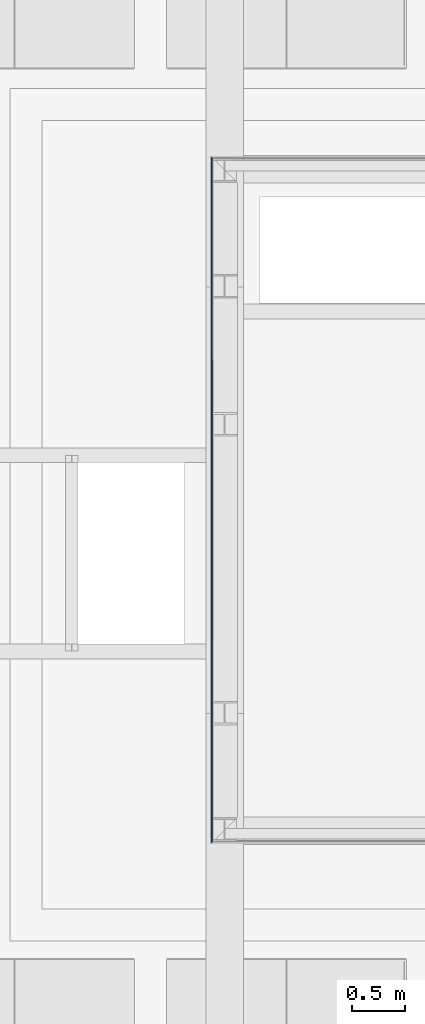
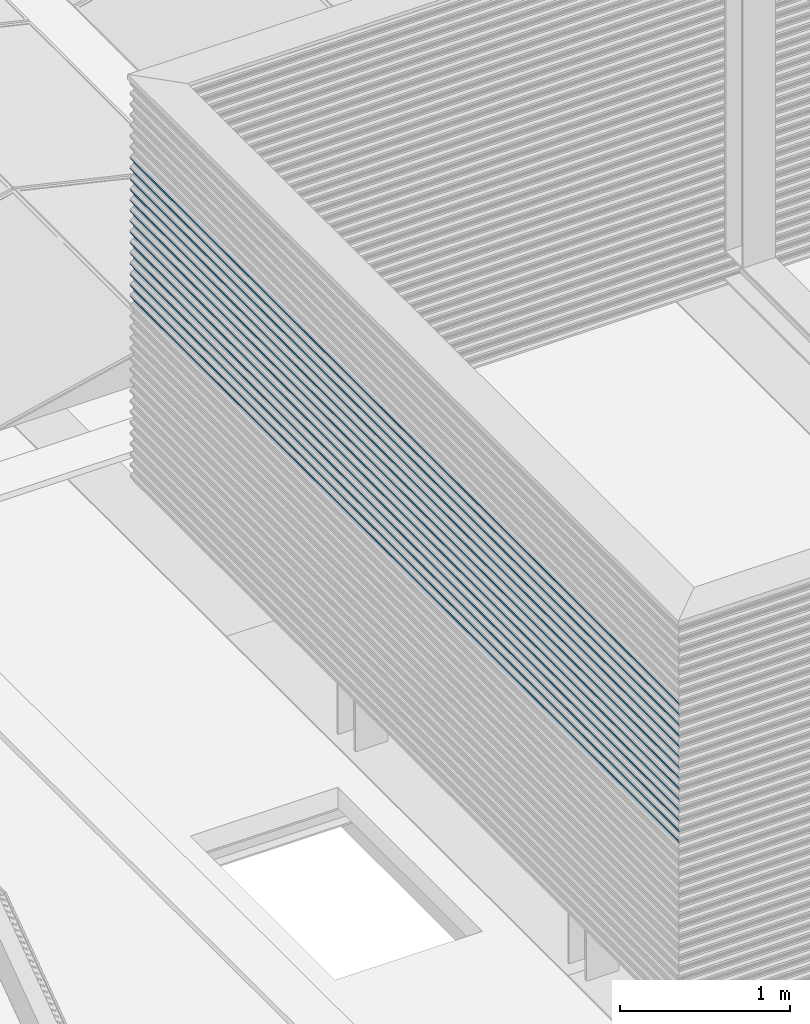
# One storey, part 24 of 63: 14 building element parts, 1 element without a shape of its own.
"""IFC2X3 building model written with IfcOpenShell, lengths in millimetres."""

from ifc_helpers import new_model, entity, si_unit, converted_unit, derived_unit, money_unit, direction, frame, origin_with_axes, place, context, subcontext, project, spatial, faceted_brep, material, type_object, element, aggregate, save


model = new_model("IFC2X3")

# Units and contexts
model_context = context("Model", 3, precision=0.01, world=origin_with_axes(), true_north=direction((0.0, 1.0)))
body_context = subcontext(model_context, "Body", "Model", "MODEL_VIEW")
ifc_project = project(units=[si_unit("LENGTHUNIT", "METRE", prefix="MILLI"), si_unit("AREAUNIT", "SQUARE_METRE"), si_unit("VOLUMEUNIT", "CUBIC_METRE"), converted_unit("PLANEANGLEUNIT", "DEGREE", entity("IfcPlaneAngleMeasure", 0.0174532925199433), si_unit("PLANEANGLEUNIT", "RADIAN"), dimensions=[0, 0, 0, 0, 0, 0, 0]), money_unit("EUR"), converted_unit("TIMEUNIT", "Year", entity("IfcTimeMeasure", 31557600.0), si_unit("TIMEUNIT", "SECOND"), dimensions=[0, 0, 1, 0, 0, 0, 0]), si_unit("MASSUNIT", "GRAM", prefix="KILO"), si_unit("THERMODYNAMICTEMPERATUREUNIT", "DEGREE_CELSIUS"), si_unit("LUMINOUSINTENSITYUNIT", "LUMEN"), si_unit("ENERGYUNIT", "JOULE", prefix="MEGA"), derived_unit("THERMALCONDUCTANCEUNIT", [(si_unit("POWERUNIT", "WATT"), 1), (si_unit("LENGTHUNIT", "METRE"), -1), (si_unit("THERMODYNAMICTEMPERATUREUNIT", "KELVIN"), -1)]), derived_unit("SPECIFICHEATCAPACITYUNIT", [(si_unit("ENERGYUNIT", "JOULE"), 1), (si_unit("MASSUNIT", "GRAM", prefix="KILO"), -1), (si_unit("THERMODYNAMICTEMPERATUREUNIT", "KELVIN"), -1)]), derived_unit("MASSDENSITYUNIT", [(si_unit("MASSUNIT", "GRAM", prefix="KILO"), 1), (si_unit("VOLUMEUNIT", "CUBIC_METRE"), -1)])], contexts=[model_context])

# Site, building, storey
site_placement = place(None, origin_with_axes())
site = spatial("IfcSite", under=ifc_project, at=site_placement, Name="<site naam>", CompositionType="ELEMENT")
building_placement = place(site_placement, origin_with_axes())
building = spatial("IfcBuilding", under=site, at=building_placement, Name="<Naam gebouw>", CompositionType="ELEMENT")
storey_placement = place(building_placement, frame((0.0, 0.0, 12770.0), z_axis=(0.0, 0.0, 1.0), x_axis=(1.0, 0.0, 0.0)))
storey = spatial("IfcBuildingStorey", under=building, at=storey_placement, Name="04 4e verdieping", CompositionType="ELEMENT", Elevation=12770.0)

# Wall, building element parts
wall_type = type_object("IfcWallType", Name="Gevelbeplating golf 18 x 2900", PredefinedType="NOTDEFINED")
wall_placement = place(storey_placement, frame((15871.99992141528, 13218.00009009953, 299.9552842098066), z_axis=(0.0, 0.0, 1.0), x_axis=(0.0, -1.0, 0.0)))
wall = element("IfcWall", 1, at=wall_placement, inside=storey, type_object=wall_type, Name="47_Binnenwand_Gevelbeplating")
ifc_material = material(Name="gevelafwerking type 3 - Aluminium RAL1036")
building_element_part_1_placement = place(wall_placement, origin_with_axes())
building_element_part_1 = element("IfcBuildingElementPart", 2, at=building_element_part_1_placement, material=ifc_material, Name="gevelafwerking type 3 - Aluminium RAL1036", context=body_context, shape_type="Brep", body=[
    faceted_brep([(17.99996189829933, 16.99995951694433, 1368.0), (17.99996189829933, 17.99996189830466, 1368.0), (6418.000206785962, 17.99996189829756, 1368.0), (6418.000206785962, 16.99995951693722, 1368.0), (15.62922477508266, 15.62922477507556, 1378.6844886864), (15.69996076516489, 14.77515899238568, 1378.36569421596), (15.62922477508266, 14.54420119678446, 1378.6844886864), (6420.37094390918, 15.62922477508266, 1378.6844886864), (6420.37094390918, 14.5442011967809, 1378.6844886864), (6420.300207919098, 14.77515899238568, 1378.36569421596), (6426.602087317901, 8.555214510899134, 1386.951118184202), (9.39808136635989, 8.555214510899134, 1386.951118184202), (9.041545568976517, 9.04154556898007, 1387.424121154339), (9.041545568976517, 8.209513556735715, 1387.424121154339), (6426.958623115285, 9.041545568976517, 1387.424121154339), (6426.958623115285, 8.209513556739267, 1387.424121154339), (6432.660085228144, 2.257320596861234, 1395.568217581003), (3.340083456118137, 2.257320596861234, 1395.568217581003), (3.116440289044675, 3.116440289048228, 1395.887674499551), (3.116440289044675, 2.188195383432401, 1395.887674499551), (6432.883728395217, 3.116440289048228, 1395.887674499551), (6432.883728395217, 2.188195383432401, 1395.887674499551), (6435.000206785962, -3.810169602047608e-05, 1406.000000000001), (0.9999618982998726, -3.810169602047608e-05, 1406.000000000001), (0.9999618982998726, 0.9999618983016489, 1406.000000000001), (6435.000206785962, 0.9999618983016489, 1406.000000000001)], [[[0, 1, 2, 3]], [[4, 1, 0, 5, 6]], [[1, 4, 7, 2]], [[3, 2, 7, 8, 9]], [[5, 0, 3, 9]], [[6, 5, 9, 8, 10, 11]], [[12, 4, 6, 11, 13]], [[4, 12, 14, 7]], [[7, 14, 15, 10, 8]], [[13, 11, 10, 15, 16, 17]], [[18, 12, 13, 17, 19]], [[12, 18, 20, 14]], [[14, 20, 21, 16, 15]], [[19, 17, 16, 21, 22, 23]], [[24, 18, 19, 23]], [[18, 24, 25, 20]], [[20, 25, 22, 21]], [[24, 23, 22, 25]]]),
])
building_element_part_2_placement = place(wall_placement, origin_with_axes())
building_element_part_2 = element("IfcBuildingElementPart", 3, at=building_element_part_2_placement, material=ifc_material, Name="gevelafwerking type 3 - Aluminium RAL1036", context=body_context, shape_type="Brep", body=[
    faceted_brep([(17.99996427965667, 16.99996189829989, 1292.0), (17.99996427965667, 17.99996427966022, 1292.0), (6418.000204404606, 17.99996427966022, 1292.0), (6418.000204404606, 16.99996189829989, 1292.0), (15.62922715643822, 15.62922715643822, 1302.684488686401), (15.69996909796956, 14.77516137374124, 1302.365667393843), (15.62922715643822, 14.5441841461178, 1302.684488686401), (6420.370941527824, 15.62922715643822, 1302.684488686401), (6420.370941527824, 14.5441841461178, 1302.684488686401), (6420.300199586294, 14.77516137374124, 1302.365667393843), (6426.60206471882, 8.555216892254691, 1310.951091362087), (9.398103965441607, 8.555216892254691, 1310.951091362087), (9.041547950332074, 9.041547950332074, 1311.424121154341), (9.041547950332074, 8.209496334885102, 1311.424121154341), (6426.958620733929, 9.041547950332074, 1311.424121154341), (6426.958620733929, 8.209496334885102, 1311.424121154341), (6432.66006406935, 2.257322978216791, 1319.568190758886), (3.340104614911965, 2.257322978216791, 1319.568190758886), (3.116442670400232, 3.116442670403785, 1319.887674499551), (3.116442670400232, 2.188191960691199, 1319.887674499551), (6432.883726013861, 3.116442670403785, 1319.887674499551), (6432.883726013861, 2.188191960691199, 1319.887674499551), (6435.000204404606, -3.572034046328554e-05, 1330.0), (0.9999642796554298, -3.572034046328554e-05, 1330.0), (0.9999642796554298, 0.9999642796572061, 1330.0), (6435.000204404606, 0.9999642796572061, 1330.0)], [[[0, 1, 2, 3]], [[4, 1, 0, 5, 6]], [[1, 4, 7, 2]], [[3, 2, 7, 8, 9]], [[5, 0, 3, 9]], [[6, 5, 9, 8, 10, 11]], [[12, 4, 6, 11, 13]], [[4, 12, 14, 7]], [[7, 14, 15, 10, 8]], [[13, 11, 10, 15, 16, 17]], [[18, 12, 13, 17, 19]], [[12, 18, 20, 14]], [[14, 20, 21, 16, 15]], [[19, 17, 16, 21, 22, 23]], [[24, 18, 19, 23]], [[18, 24, 25, 20]], [[20, 25, 22, 21]], [[24, 23, 22, 25]]]),
])
building_element_part_3_placement = place(wall_placement, origin_with_axes())
building_element_part_3 = element("IfcBuildingElementPart", 4, at=building_element_part_3_placement, material=ifc_material, Name="gevelafwerking type 3 - Aluminium RAL1036", context=body_context, shape_type="Brep", body=[
    faceted_brep([(17.99995951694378, 16.99995713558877, 1443.999999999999), (17.99995951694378, 17.99995951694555, 1443.999999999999), (6418.000209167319, 17.99995951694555, 1443.999999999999), (6418.000209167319, 16.99995713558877, 1443.999999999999), (15.62922239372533, 15.6292223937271, 1454.6844886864), (15.69996202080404, 14.77515661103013, 1454.365677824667), (15.62922239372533, 14.54418694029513, 1454.6844886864), (6420.370946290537, 15.6292223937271, 1454.6844886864), (6420.370946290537, 14.54418694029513, 1454.6844886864), (6420.300206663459, 14.77515661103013, 1454.365677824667), (6426.60207734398, 8.555212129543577, 1462.951101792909), (9.398091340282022, 8.555212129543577, 1462.951101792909), (9.04154318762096, 9.04154318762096, 1463.42412115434), (9.04154318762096, 8.209499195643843, 1463.42412115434), (6426.958625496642, 9.04154318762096, 1463.42412115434), (6426.958625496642, 8.209499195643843, 1463.42412115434), (6432.660076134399, 2.257318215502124, 1471.56820118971), (3.340092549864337, 2.257318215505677, 1471.56820118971), (3.116437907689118, 3.116437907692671, 1471.887674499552), (3.116437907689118, 2.188189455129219, 1471.887674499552), (6432.883730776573, 3.116437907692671, 1471.887674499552), (6432.883730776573, 2.188189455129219, 1471.887674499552), (6435.000209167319, -4.048305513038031e-05, 1481.999999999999), (0.9999595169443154, -4.048305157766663e-05, 1481.999999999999), (0.9999595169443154, 0.9999595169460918, 1481.999999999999), (6435.000209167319, 0.9999595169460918, 1481.999999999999)], [[[0, 1, 2, 3]], [[4, 1, 0, 5, 6]], [[1, 4, 7, 2]], [[3, 2, 7, 8, 9]], [[5, 0, 3, 9]], [[6, 5, 9, 8, 10, 11]], [[12, 4, 6, 11, 13]], [[4, 12, 14, 7]], [[7, 14, 15, 10, 8]], [[13, 11, 10, 15, 16, 17]], [[18, 12, 13, 17, 19]], [[12, 18, 20, 14]], [[14, 20, 21, 16, 15]], [[19, 17, 16, 21, 22, 23]], [[24, 18, 19, 23]], [[18, 24, 25, 20]], [[20, 25, 22, 21]], [[24, 23, 22, 25]]]),
])
building_element_part_4_placement = place(wall_placement, origin_with_axes())
building_element_part_4 = element("IfcBuildingElementPart", 5, at=building_element_part_4_placement, material=ifc_material, Name="gevelafwerking type 3 - Aluminium RAL1036", context=body_context, shape_type="Brep", body=[
    faceted_brep([(17.99995475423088, 16.99995237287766, 1596.0), (17.99995475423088, 17.99995475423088, 1596.0), (6418.00021393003, 17.99995475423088, 1596.0), (6418.00021393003, 16.99995237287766, 1596.0), (15.62921763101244, 15.62921763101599, 1606.684488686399), (15.69995494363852, 14.77515184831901, 1606.36568825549), (15.62921763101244, 14.54418973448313, 1606.684488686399), (6420.370951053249, 15.62921763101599, 1606.684488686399), (6420.370951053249, 14.54418973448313, 1606.684488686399), (6420.300213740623, 14.77515184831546, 1606.36568825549), (6426.60208996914, 8.555207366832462, 1614.951112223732), (9.398078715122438, 8.555207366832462, 1614.951112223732), (9.041538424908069, 9.041538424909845, 1615.424121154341), (9.041538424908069, 8.209502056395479, 1615.424121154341), (6426.958630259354, 9.041538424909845, 1615.424121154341), (6426.958630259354, 8.209502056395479, 1615.424121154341), (6432.66008819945, 2.25731345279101, 1623.568211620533), (3.340080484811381, 2.25731345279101, 1623.568211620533), (3.116433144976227, 3.116433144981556, 1623.887674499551), (3.116433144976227, 2.188186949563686, 1623.887674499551), (6432.883735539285, 3.116433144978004, 1623.887674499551), (6432.883735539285, 2.188186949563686, 1623.887674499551), (6435.00021393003, -4.52457662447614e-05, 1633.999999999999), (0.9999547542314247, -4.52457662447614e-05, 1633.999999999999), (0.9999547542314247, 0.9999547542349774, 1633.999999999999), (6435.00021393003, 0.9999547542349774, 1633.999999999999)], [[[0, 1, 2, 3]], [[4, 1, 0, 5, 6]], [[1, 4, 7, 2]], [[3, 2, 7, 8, 9]], [[5, 0, 3, 9]], [[6, 5, 9, 8, 10, 11]], [[12, 4, 6, 11, 13]], [[4, 12, 14, 7]], [[7, 14, 15, 10, 8]], [[13, 11, 10, 15, 16, 17]], [[18, 12, 13, 17, 19]], [[12, 18, 20, 14]], [[14, 20, 21, 16, 15]], [[19, 17, 16, 21, 22, 23]], [[24, 18, 19, 23]], [[18, 24, 25, 20]], [[20, 25, 22, 21]], [[24, 23, 22, 25]]]),
])
building_element_part_5_placement = place(wall_placement, origin_with_axes())
building_element_part_5 = element("IfcBuildingElementPart", 6, at=building_element_part_5_placement, material=ifc_material, Name="gevelafwerking type 3 - Aluminium RAL1036", context=body_context, shape_type="Brep", body=[
    faceted_brep([(17.99995237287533, 16.9999499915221, 1671.999999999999), (17.99995237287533, 17.99995237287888, 1671.999999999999), (6418.000216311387, 17.99995237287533, 1671.999999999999), (6418.000216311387, 16.9999499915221, 1671.999999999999), (15.62921524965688, 15.62921524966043, 1682.6844886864), (15.69995619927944, 14.7751494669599, 1682.365671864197), (15.62921524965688, 14.54417547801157, 1682.6844886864), (6420.370953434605, 15.62921524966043, 1682.6844886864), (6420.370953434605, 14.54417547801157, 1682.6844886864), (6420.300212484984, 14.7751494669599, 1682.365671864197), (6426.602079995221, 8.555204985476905, 1690.951095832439), (9.398088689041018, 8.555204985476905, 1690.951095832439), (9.041536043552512, 9.041536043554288, 1691.424121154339), (9.041536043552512, 8.209487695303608, 1691.424121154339), (6426.958632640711, 9.041536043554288, 1691.424121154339), (6426.958632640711, 8.209487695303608, 1691.424121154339), (6432.660079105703, 2.257311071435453, 1699.56819522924), (3.340089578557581, 2.257311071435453, 1699.56819522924), (3.11643076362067, 3.116430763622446, 1699.887674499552), (3.11643076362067, 2.188181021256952, 1699.887674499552), (6432.883737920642, 3.116430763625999, 1699.887674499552), (6432.883737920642, 2.188181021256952, 1699.887674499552), (6435.000216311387, -4.762712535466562e-05, 1709.999999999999), (0.9999523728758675, -4.762713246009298e-05, 1709.999999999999), (0.9999523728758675, 0.9999523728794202, 1709.999999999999), (6435.000216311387, 0.9999523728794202, 1709.999999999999)], [[[0, 1, 2, 3]], [[4, 1, 0, 5, 6]], [[1, 4, 7, 2]], [[3, 2, 7, 8, 9]], [[5, 0, 3, 9]], [[6, 5, 9, 8, 10, 11]], [[12, 4, 6, 11, 13]], [[4, 12, 14, 7]], [[7, 14, 15, 10, 8]], [[13, 11, 10, 15, 16, 17]], [[18, 12, 13, 17, 19]], [[12, 18, 20, 14]], [[14, 20, 21, 16, 15]], [[19, 17, 16, 21, 22, 23]], [[24, 18, 19, 23]], [[18, 24, 25, 20]], [[20, 25, 22, 21]], [[24, 23, 22, 25]]]),
])
building_element_part_6_placement = place(wall_placement, origin_with_axes())
building_element_part_6 = element("IfcBuildingElementPart", 7, at=building_element_part_6_placement, material=ifc_material, Name="gevelafwerking type 3 - Aluminium RAL1036", context=body_context, shape_type="Brep", body=[
    faceted_brep([(17.99995713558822, 16.99995475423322, 1520.0), (17.99995713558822, 17.99995713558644, 1520.0), (6418.000211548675, 17.99995713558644, 1520.0), (6418.000211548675, 16.99995475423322, 1520.0), (15.62922001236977, 15.62922001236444, 1530.684488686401), (15.69995368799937, 14.77515422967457, 1530.365704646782), (15.62922001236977, 14.54420399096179, 1530.684488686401), (6420.370948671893, 15.62922001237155, 1530.684488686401), (6420.300214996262, 14.77515422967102, 1530.365704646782), (6420.370948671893, 14.54420399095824, 1530.684488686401), (6426.602099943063, 8.55520974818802, 1538.951128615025), (9.398068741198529, 8.55520974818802, 1538.951128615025), (9.041540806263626, 9.041540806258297, 1539.42412115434), (9.041540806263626, 8.209516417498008, 1539.42412115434), (6426.958627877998, 9.041540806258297, 1539.42412115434), (6426.958627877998, 8.209516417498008, 1539.42412115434), (6432.660097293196, 2.257315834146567, 1547.568228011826), (3.34007139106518, 2.25731583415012, 1547.568228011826), (3.116435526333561, 3.116435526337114, 1547.887674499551), (3.116435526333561, 2.188183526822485, 1547.887674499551), (6432.88373315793, 3.116435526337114, 1547.887674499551), (6432.88373315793, 2.188183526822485, 1547.887674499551), (6435.000211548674, -4.286441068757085e-05, 1558.0), (0.9999571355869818, -4.286440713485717e-05, 1558.0), (0.9999571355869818, 0.99995713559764, 1558.0), (6435.000211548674, 0.9999571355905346, 1558.0)], [[[0, 1, 2, 3]], [[4, 1, 0, 5, 6]], [[1, 4, 7, 2]], [[8, 3, 2, 7, 9]], [[5, 0, 3, 8]], [[6, 5, 8, 9, 10, 11]], [[12, 4, 6, 11, 13]], [[4, 12, 14, 7]], [[9, 7, 14, 15, 10]], [[13, 11, 10, 15, 16, 17]], [[18, 12, 13, 17, 19]], [[12, 18, 20, 14]], [[15, 14, 20, 21, 16]], [[19, 17, 16, 21, 22, 23]], [[24, 18, 19, 23]], [[18, 24, 25, 20]], [[21, 20, 25, 22]], [[24, 23, 22, 25]]]),
])
building_element_part_7_placement = place(wall_placement, origin_with_axes())
building_element_part_7 = element("IfcBuildingElementPart", 8, at=building_element_part_7_placement, material=ifc_material, Name="gevelafwerking type 3 - Aluminium RAL1036", context=body_context, shape_type="Brep", body=[
    faceted_brep([(17.99994999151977, 16.99994761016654, 1747.999999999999), (17.99994999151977, 17.99994999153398, 1747.999999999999), (6418.000218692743, 17.99994999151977, 1747.999999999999), (6418.000218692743, 16.99994761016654, 1747.999999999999), (15.62921286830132, 15.62921286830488, 1758.6844886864), (15.69994786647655, 14.77514708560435, 1758.365698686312), (15.62921286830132, 14.54419252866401, 1758.6844886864), (6420.370955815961, 15.62921286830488, 1758.6844886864), (6420.300220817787, 14.77514708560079, 1758.365698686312), (6420.370955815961, 14.54419252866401, 1758.6844886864), (6426.602102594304, 8.555202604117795, 1766.951122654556), (9.3980660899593, 8.555202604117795, 1766.951122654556), (9.041533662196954, 9.04153366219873, 1767.42412115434), (9.041533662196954, 8.209504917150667, 1767.42412115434), (6426.958635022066, 9.04153366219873, 1767.42412115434), (6426.958635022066, 8.209504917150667, 1767.42412115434), (6432.660100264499, 2.257308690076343, 1775.568222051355), (3.340068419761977, 2.257308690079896, 1775.568222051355), (3.116428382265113, 3.116428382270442, 1775.88767449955), (3.116428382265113, 2.188175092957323, 1775.88767449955), (6432.883740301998, 3.116428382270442, 1775.88767449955), (6432.883740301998, 2.188175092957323, 1775.88767449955), (6435.000218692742, -5.000848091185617e-05, 1786.0), (0.9999499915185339, -5.000848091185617e-05, 1786.0), (0.9999499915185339, 0.999949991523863, 1786.0), (6435.000218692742, 0.999949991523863, 1786.0)], [[[0, 1, 2, 3]], [[4, 1, 0, 5, 6]], [[1, 4, 7, 2]], [[8, 3, 2, 7, 9]], [[5, 0, 3, 8]], [[6, 5, 8, 9, 10, 11]], [[12, 4, 6, 11, 13]], [[4, 12, 14, 7]], [[9, 7, 14, 15, 10]], [[13, 11, 10, 15, 16, 17]], [[18, 12, 13, 17, 19]], [[12, 18, 20, 14]], [[15, 14, 20, 21, 16]], [[19, 17, 16, 21, 22, 23]], [[24, 18, 19, 23]], [[18, 24, 25, 20]], [[21, 20, 25, 22]], [[24, 23, 22, 25]]]),
])
building_element_part_8_placement = place(wall_placement, origin_with_axes())
building_element_part_8 = element("IfcBuildingElementPart", 9, at=building_element_part_8_placement, material=ifc_material, Name="gevelafwerking type 3 - Aluminium RAL1036", context=body_context, shape_type="Brep", body=[
    faceted_brep([(17.99994761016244, 16.99994522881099, 1824.0), (17.99994761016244, 17.99994761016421, 1824.0), (6418.000221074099, 17.99994761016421, 1824.0), (6418.000221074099, 16.99994522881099, 1824.0), (15.62921048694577, 15.62921048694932, 1834.684488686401), (15.6999491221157, 14.77514470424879, 1834.365682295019), (15.62921048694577, 14.5441782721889, 1834.684488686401), (6420.370958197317, 15.62921048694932, 1834.684488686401), (6420.370958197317, 14.5441782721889, 1834.684488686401), (6420.300219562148, 14.77514470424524, 1834.365682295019), (6426.602092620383, 8.555200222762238, 1842.951106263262), (9.398076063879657, 8.55520022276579, 1842.951106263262), (9.04153128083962, 9.041531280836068, 1843.424121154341), (9.04153128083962, 8.209490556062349, 1843.424121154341), (6426.958637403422, 9.041531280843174, 1843.424121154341), (6426.958637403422, 8.209490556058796, 1843.424121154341), (6432.660091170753, 2.257306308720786, 1851.568205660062), (3.340077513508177, 2.257306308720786, 1851.568205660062), (3.116426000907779, 3.116426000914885, 1851.887674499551), (3.116426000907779, 2.188178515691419, 1851.887674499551), (6432.883742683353, 3.116426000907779, 1851.887674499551), (6432.883742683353, 2.188178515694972, 1851.887674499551), (6435.000221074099, -5.238983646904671e-05, 1862.0), (0.9999476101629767, -5.238983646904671e-05, 1862.0), (0.9999476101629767, 0.9999476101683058, 1862.0), (6435.000221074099, 0.9999476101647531, 1862.0)], [[[0, 1, 2, 3]], [[4, 1, 0, 5, 6]], [[1, 4, 7, 2]], [[3, 2, 7, 8, 9]], [[5, 0, 3, 9]], [[6, 5, 9, 8, 10, 11]], [[12, 4, 6, 11, 13]], [[4, 12, 14, 7]], [[7, 14, 15, 10, 8]], [[13, 11, 10, 15, 16, 17]], [[18, 12, 13, 17, 19]], [[12, 18, 20, 14]], [[14, 20, 21, 16, 15]], [[19, 17, 16, 21, 22, 23]], [[24, 18, 19, 23]], [[18, 24, 25, 20]], [[20, 25, 22, 21]], [[24, 23, 22, 25]]]),
])
building_element_part_9_placement = place(wall_placement, origin_with_axes())
building_element_part_9 = element("IfcBuildingElementPart", 10, at=building_element_part_9_placement, material=ifc_material, Name="gevelafwerking type 3 - Aluminium RAL1036", context=body_context, shape_type="Brep", body=[
    faceted_brep([(17.99994761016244, 16.99994522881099, 1900.0), (17.99994761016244, 17.99994761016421, 1900.0), (6418.000221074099, 17.99994761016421, 1900.0), (6418.000221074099, 16.99994522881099, 1900.0), (15.62921048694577, 15.62921048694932, 1910.6844886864), (15.6999527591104, 14.77514470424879, 1910.365665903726), (15.62921048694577, 14.54416639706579, 1910.6844886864), (6420.370958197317, 15.62921048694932, 1910.6844886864), (6420.370958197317, 14.54416639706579, 1910.6844886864), (6420.300215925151, 14.77514470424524, 1910.365665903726), (6426.602080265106, 8.555200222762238, 1918.951089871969), (9.39808841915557, 8.555200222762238, 1918.951089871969), (9.04153128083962, 9.041531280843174, 1919.424121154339), (9.04153128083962, 8.209478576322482, 1919.424121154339), (6426.958637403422, 9.041531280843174, 1919.424121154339), (6426.958637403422, 8.209478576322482, 1919.424121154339), (6432.660079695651, 2.257306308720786, 1927.56818926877), (3.340088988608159, 2.257306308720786, 1927.56818926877), (3.116426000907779, 3.116426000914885, 1927.887674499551), (3.116426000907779, 2.188174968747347, 1927.887674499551), (6432.883742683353, 3.116426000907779, 1927.887674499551), (6432.883742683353, 2.188174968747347, 1927.887674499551), (6435.000221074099, -5.238983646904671e-05, 1937.999999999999), (0.9999476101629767, -5.238984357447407e-05, 1937.999999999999), (0.9999476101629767, 0.9999476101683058, 1937.999999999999), (6435.000221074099, 0.9999476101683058, 1937.999999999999)], [[[0, 1, 2, 3]], [[4, 1, 0, 5, 6]], [[1, 4, 7, 2]], [[3, 2, 7, 8, 9]], [[5, 0, 3, 9]], [[6, 5, 9, 8, 10, 11]], [[12, 4, 6, 11, 13]], [[4, 12, 14, 7]], [[7, 14, 15, 10, 8]], [[13, 11, 10, 15, 16, 17]], [[18, 12, 13, 17, 19]], [[12, 18, 20, 14]], [[14, 20, 21, 16, 15]], [[19, 17, 16, 21, 22, 23]], [[24, 18, 19, 23]], [[18, 24, 25, 20]], [[20, 25, 22, 21]], [[24, 23, 22, 25]]]),
])
building_element_part_10_placement = place(wall_placement, origin_with_axes())
building_element_part_10 = element("IfcBuildingElementPart", 11, at=building_element_part_10_placement, material=ifc_material, Name="gevelafwerking type 3 - Aluminium RAL1036", context=body_context, shape_type="Brep", body=[
    faceted_brep([(17.99994284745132, 16.99994046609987, 2052.0), (17.99994284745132, 17.9999428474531, 2052.0), (6418.00022583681, 17.9999428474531, 2052.0), (6418.00022583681, 16.99994046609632, 2052.0), (15.62920572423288, 15.6292057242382, 2062.684488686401), (15.69994568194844, 14.77513994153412, 2062.365676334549), (15.62920572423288, 14.54416919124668, 2062.684488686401), (6420.370962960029, 15.62920572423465, 2062.684488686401), (6420.300223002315, 14.77513994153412, 2062.365676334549), (6420.370962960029, 14.54416919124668, 2062.684488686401), (6426.602092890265, 8.555195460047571, 2070.951100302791), (9.398075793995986, 8.555195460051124, 2070.951100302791), (9.04152651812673, 9.04152651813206, 2071.42412115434), (9.04152651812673, 8.20948143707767, 2071.42412115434), (6426.958642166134, 9.041526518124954, 2071.42412115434), (6426.958642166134, 8.209481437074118, 2071.42412115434), (6432.660091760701, 2.257301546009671, 2079.568199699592), (3.340076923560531, 2.257301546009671, 2079.568199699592), (3.116421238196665, 3.116421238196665, 2079.88767449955), (3.116421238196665, 2.188172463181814, 2079.88767449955), (6432.883747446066, 3.116421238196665, 2079.88767449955), (6432.883747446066, 2.188172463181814, 2079.88767449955), (6435.000225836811, -5.71525475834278e-05, 2090.0), (0.9999428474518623, -5.71525475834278e-05, 2090.0), (0.9999428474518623, 0.9999428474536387, 2090.0), (6435.000225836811, 0.9999428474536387, 2090.0)], [[[0, 1, 2, 3]], [[4, 1, 0, 5, 6]], [[1, 4, 7, 2]], [[8, 3, 2, 7, 9]], [[5, 0, 3, 8]], [[6, 5, 8, 9, 10, 11]], [[12, 4, 6, 11, 13]], [[4, 12, 14, 7]], [[9, 7, 14, 15, 10]], [[13, 11, 10, 15, 16, 17]], [[18, 12, 13, 17, 19]], [[12, 18, 20, 14]], [[15, 14, 20, 21, 16]], [[19, 17, 16, 21, 22, 23]], [[24, 18, 19, 23]], [[18, 24, 25, 20]], [[21, 20, 25, 22]], [[24, 23, 22, 25]]]),
])
building_element_part_11_placement = place(wall_placement, origin_with_axes())
building_element_part_11 = element("IfcBuildingElementPart", 12, at=building_element_part_11_placement, material=ifc_material, Name="gevelafwerking type 3 - Aluminium RAL1036", context=body_context, shape_type="Brep", body=[
    faceted_brep([(17.99994046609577, 16.99993808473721, 2127.999999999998), (17.99994046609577, 17.99994046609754, 2127.999999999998), (6418.000228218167, 17.99994046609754, 2127.999999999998), (6418.000228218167, 16.99993808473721, 2127.999999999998), (15.62920334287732, 15.62920334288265, 2138.684488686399), (15.69993734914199, 14.77513756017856, 2138.365703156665), (15.62920334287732, 14.54418624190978, 2138.684488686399), (6420.370965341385, 15.62920334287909, 2138.684488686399), (6420.370965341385, 14.54418624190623, 2138.684488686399), (6420.300231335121, 14.77513756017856, 2138.365703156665), (6426.602115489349, 8.555193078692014, 2146.951127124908), (9.398053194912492, 8.555193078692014, 2146.951127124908), (9.041524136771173, 9.041524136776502, 2147.424121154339), (9.041524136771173, 8.209498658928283, 2147.424121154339), (6426.95864454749, 9.04152413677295, 2147.424121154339), (6426.95864454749, 8.209498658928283, 2147.424121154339), (6432.660112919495, 2.257299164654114, 2155.568226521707), (3.340055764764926, 2.257299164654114, 2155.568226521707), (3.116418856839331, 3.116418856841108, 2155.887674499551), (3.116418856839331, 2.18816653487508, 2155.887674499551), (6432.883749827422, 3.116418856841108, 2155.887674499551), (6432.883749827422, 2.18816653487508, 2155.887674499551), (6435.000228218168, -5.953390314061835e-05, 2165.999999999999), (0.9999404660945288, -5.953390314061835e-05, 2165.999999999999), (0.9999404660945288, 0.9999404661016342, 2165.999999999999), (6435.000228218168, 0.9999404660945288, 2165.999999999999)], [[[0, 1, 2, 3]], [[4, 1, 0, 5, 6]], [[1, 4, 7, 2]], [[3, 2, 7, 8, 9]], [[5, 0, 3, 9]], [[6, 5, 9, 8, 10, 11]], [[12, 4, 6, 11, 13]], [[4, 12, 14, 7]], [[7, 14, 15, 10, 8]], [[13, 11, 10, 15, 16, 17]], [[18, 12, 13, 17, 19]], [[12, 18, 20, 14]], [[14, 20, 21, 16, 15]], [[19, 17, 16, 21, 22, 23]], [[24, 18, 19, 23]], [[18, 24, 25, 20]], [[20, 25, 22, 21]], [[24, 23, 22, 25]]]),
])
building_element_part_12_placement = place(wall_placement, origin_with_axes())
building_element_part_12 = element("IfcBuildingElementPart", 13, at=building_element_part_12_placement, material=ifc_material, Name="gevelafwerking type 3 - Aluminium RAL1036", context=body_context, shape_type="Brep", body=[
    faceted_brep([(17.99994522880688, 16.99994284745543, 1975.999999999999), (17.99994522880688, 17.99994522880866, 1975.999999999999), (6418.000223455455, 17.99994522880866, 1975.999999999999), (6418.000223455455, 16.99994284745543, 1975.999999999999), (15.62920810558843, 15.62920810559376, 1986.6844886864), (15.69994442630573, 14.77514232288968, 1986.365692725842), (15.62920810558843, 14.54418344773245, 1986.6844886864), (6420.370960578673, 15.62920810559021, 1986.6844886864), (6420.370960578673, 14.54418344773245, 1986.6844886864), (6420.300224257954, 14.77514232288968, 1986.365692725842), (6426.602102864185, 8.555197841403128, 1994.951116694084), (9.39806582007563, 8.555197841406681, 1994.951116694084), (9.041528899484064, 9.041528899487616, 1995.42412115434), (9.041528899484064, 8.209495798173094, 1995.42412115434), (6426.958639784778, 9.041528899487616, 1995.42412115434), (6426.958639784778, 8.209495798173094, 1995.42412115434), (6432.660100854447, 2.257303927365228, 2003.568216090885), (3.34006782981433, 2.257303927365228, 2003.568216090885), (3.116423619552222, 3.116423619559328, 2003.88767449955), (3.116423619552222, 2.188178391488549, 2003.88767449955), (6432.88374506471, 3.116423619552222, 2003.88767449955), (6432.88374506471, 2.188178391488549, 2003.88767449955), (6435.000223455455, -5.477119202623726e-05, 2013.999999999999), (0.9999452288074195, -5.477119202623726e-05, 2013.999999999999), (0.9999452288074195, 0.9999452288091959, 2013.999999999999), (6435.000223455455, 0.9999452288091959, 2013.999999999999)], [[[0, 1, 2, 3]], [[4, 1, 0, 5, 6]], [[1, 4, 7, 2]], [[3, 2, 7, 8, 9]], [[5, 0, 3, 9]], [[6, 5, 9, 8, 10, 11]], [[12, 4, 6, 11, 13]], [[4, 12, 14, 7]], [[7, 14, 15, 10, 8]], [[13, 11, 10, 15, 16, 17]], [[18, 12, 13, 17, 19]], [[12, 18, 20, 14]], [[14, 20, 21, 16, 15]], [[19, 17, 16, 21, 22, 23]], [[24, 18, 19, 23]], [[18, 24, 25, 20]], [[20, 25, 22, 21]], [[24, 23, 22, 25]]]),
])
building_element_part_13_placement = place(wall_placement, origin_with_axes())
building_element_part_13 = element("IfcBuildingElementPart", 14, at=building_element_part_13_placement, material=ifc_material, Name="gevelafwerking type 3 - Aluminium RAL1036", context=body_context, shape_type="Brep", body=[
    faceted_brep([(17.99993808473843, 16.99993570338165, 2203.999999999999), (17.99993808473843, 17.99993808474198, 2203.999999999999), (6418.000230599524, 17.99993808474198, 2203.999999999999), (6418.000230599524, 16.9999357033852, 2203.999999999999), (15.62920096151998, 15.62920096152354, 2214.6844886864), (15.69993860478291, 14.77513517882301, 2214.365686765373), (15.62920096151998, 14.54417198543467, 2214.6844886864), (6420.370967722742, 15.62920096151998, 2214.6844886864), (6420.300230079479, 14.77513517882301, 2214.365686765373), (6420.370967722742, 14.54417198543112, 2214.6844886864), (6426.602105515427, 8.555190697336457, 2222.951110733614), (9.398063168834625, 8.555190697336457, 2222.951110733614), (9.041521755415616, 9.04152175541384, 2223.424121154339), (9.041521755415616, 8.209484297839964, 2223.424121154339), (6426.958646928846, 9.04152175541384, 2223.424121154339), (6426.958646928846, 8.209484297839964, 2223.424121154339), (6432.660103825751, 2.257296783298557, 2231.568210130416), (3.340064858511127, 2.257296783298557, 2231.568210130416), (3.116416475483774, 3.116416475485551, 2231.887674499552), (3.116416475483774, 2.188169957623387, 2231.887674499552), (6432.883752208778, 3.116416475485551, 2231.887674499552), (6432.883752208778, 2.188169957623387, 2231.887674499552), (6435.000230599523, -6.19152586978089e-05, 2241.999999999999), (0.9999380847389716, -6.19152586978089e-05, 2241.999999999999), (0.9999380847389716, 0.9999380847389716, 2241.999999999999), (6435.000230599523, 0.9999380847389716, 2241.999999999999)], [[[0, 1, 2, 3]], [[4, 1, 0, 5, 6]], [[1, 4, 7, 2]], [[8, 3, 2, 7, 9]], [[5, 0, 3, 8]], [[6, 5, 8, 9, 10, 11]], [[12, 4, 6, 11, 13]], [[4, 12, 14, 7]], [[9, 7, 14, 15, 10]], [[13, 11, 10, 15, 16, 17]], [[18, 12, 13, 17, 19]], [[12, 18, 20, 14]], [[15, 14, 20, 21, 16]], [[19, 17, 16, 21, 22, 23]], [[24, 18, 19, 23]], [[18, 24, 25, 20]], [[21, 20, 25, 22]], [[24, 23, 22, 25]]]),
])
building_element_part_14_placement = place(wall_placement, origin_with_axes())
building_element_part_14 = element("IfcBuildingElementPart", 15, at=building_element_part_14_placement, material=ifc_material, Name="gevelafwerking type 3 - Aluminium RAL1036", context=body_context, shape_type="Brep", body=[
    faceted_brep([(17.99993570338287, 16.99993332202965, 2280.0), (17.99993570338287, 17.99993570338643, 2280.0), (6418.000232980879, 17.99993570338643, 2280.0), (6418.000232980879, 16.9999333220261, 2280.0), (15.62919858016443, 15.62919858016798, 2290.684488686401), (15.69993986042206, 14.77513279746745, 2290.365670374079), (15.62919858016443, 14.54415772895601, 2290.684488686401), (6420.370970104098, 15.62919858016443, 2290.684488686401), (6420.300228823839, 14.77513279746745, 2290.365670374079), (6420.370970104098, 14.54415772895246, 2290.684488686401), (6426.602095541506, 8.5551883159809, 2298.951094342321), (9.398073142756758, 8.5551883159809, 2298.951094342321), (9.041519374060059, 9.041519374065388, 2299.42412115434), (9.041519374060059, 8.209469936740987, 2299.42412115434), (6426.958649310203, 9.041519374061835, 2299.42412115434), (6426.958649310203, 8.209469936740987, 2299.42412115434), (6432.660094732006, 2.257294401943, 2307.568193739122), (3.340073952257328, 2.257294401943, 2307.568193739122), (3.116414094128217, 3.116414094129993, 2307.887674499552), (3.116414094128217, 2.1881640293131, 2307.887674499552), (6432.883754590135, 3.116414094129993, 2307.887674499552), (6432.883754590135, 2.1881640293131, 2307.887674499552), (6435.000232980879, -6.429661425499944e-05, 2318.0), (0.9999357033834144, -6.429661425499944e-05, 2318.0), (0.9999357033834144, 0.9999357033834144, 2318.0), (6435.000232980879, 0.9999357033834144, 2318.0)], [[[0, 1, 2, 3]], [[4, 1, 0, 5, 6]], [[1, 4, 7, 2]], [[8, 3, 2, 7, 9]], [[5, 0, 3, 8]], [[6, 5, 8, 9, 10, 11]], [[12, 4, 6, 11, 13]], [[4, 12, 14, 7]], [[9, 7, 14, 15, 10]], [[13, 11, 10, 15, 16, 17]], [[18, 12, 13, 17, 19]], [[12, 18, 20, 14]], [[15, 14, 20, 21, 16]], [[19, 17, 16, 21, 22, 23]], [[24, 18, 19, 23]], [[18, 24, 25, 20]], [[21, 20, 25, 22]], [[24, 23, 22, 25]]]),
])
aggregate(wall, [building_element_part_1, building_element_part_2, building_element_part_3, building_element_part_4, building_element_part_5, building_element_part_6, building_element_part_7, building_element_part_8, building_element_part_9, building_element_part_10, building_element_part_11, building_element_part_12, building_element_part_13, building_element_part_14])

save(model, "model.ifc")
